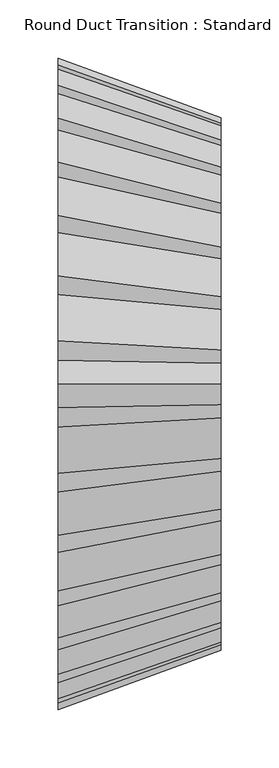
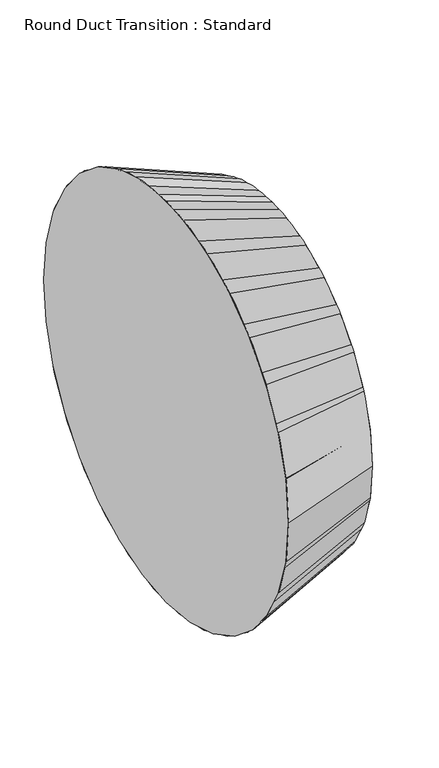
"""IFC4 building model written with IfcOpenShell, lengths in millimetres: duct fitting geometry, Round Duct Transition : Standard."""

from ifc_helpers import new_model, si_unit, frame, origin, place, context, project, spatial, polyline, circle_curve, source, transform, mapped, element, save
from ifc_brep_helpers import plane_surface, revolved_surface, advanced_brep


def round_duct_transition_standard_7377344e(model_context):
    return source(origin(), model_context, "Body", "AdvancedBrep", [
        advanced_brep(
        [(139.7, -228.6, 0.0), (139.7, 0.0, -228.6), (139.7, 228.6, 0.0), (139.7, 0.0, 228.6), (0.0, -279.4, 0.0), (0.0, 0.0, 279.4), (0.0, 279.4, 0.0), (0.0, 0.0, -279.4)],
        [
            (0, 1, circle_curve(frame((139.7, 0.0, 0.0), z_axis=(1.0, 0.0, 0.0), x_axis=(0.0, -1.0, 0.0)), 228.6)),
            (1, 2, circle_curve(frame((139.7, 0.0, 0.0), z_axis=(1.0, 0.0, 0.0), x_axis=(0.0, 0.0, -1.0)), 228.6)),
            (2, 3, circle_curve(frame((139.7, 0.0, 0.0), z_axis=(1.0, 0.0, 0.0), x_axis=(0.0, 1.0, 0.0)), 228.6)),
            (3, 0, circle_curve(frame((139.7, 0.0, 0.0), z_axis=(1.0, 0.0, 0.0), x_axis=(0.0, 0.0, 1.0)), 228.6)),
            (4, 5, circle_curve(frame((0.0, 0.0, 0.0), z_axis=(-1.0, 0.0, 0.0), x_axis=(0.0, 0.0, 1.0)), 279.4)),
            (5, 6, circle_curve(frame((0.0, 0.0, 0.0), z_axis=(-1.0, 0.0, 0.0), x_axis=(0.0, 1.0, 0.0)), 279.4)),
            (6, 7, circle_curve(frame((0.0, 0.0, 0.0), z_axis=(-1.0, 0.0, 0.0), x_axis=(0.0, 0.0, -1.0)), 279.4)),
            (7, 4, circle_curve(frame((0.0, 0.0, 0.0), z_axis=(-1.0, 0.0, 0.0), x_axis=(0.0, -1.0, 0.0)), 279.4)),
            (7, 1),
            (0, 4),
            (6, 2),
            (5, 3),
        ],
        [
            plane_surface(frame((139.7, 0.0, 0.0), z_axis=(1.0, 0.0, 0.0), x_axis=(0.0, 0.0, -1.0))),
            plane_surface(frame((0.0, 0.0, 0.0), z_axis=(-1.0, 0.0, 0.0), x_axis=(0.0, 0.0, -1.0))),
            revolved_surface(polyline([(139.69999999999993, -228.6, 0.0), (0.0, -279.4, 0.0)]), (768.35, 0.0, 0.0), (-1.0, 0.0, 0.0)),
            revolved_surface(polyline([(139.69999999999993, 0.0, -228.6), (0.0, 0.0, -279.4)]), (768.35, 0.0, 0.0), (-1.0, 0.0, 0.0)),
            revolved_surface(polyline([(139.69999999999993, 228.6, 0.0), (0.0, 279.4, 0.0)]), (768.35, 0.0, 0.0), (-1.0, 0.0, 0.0)),
            revolved_surface(polyline([(139.69999999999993, 0.0, 228.6), (0.0, 0.0, 279.4)]), (768.35, 0.0, 0.0), (-1.0, 0.0, 0.0)),
        ],
        [
            (0, [[1, 2, 3, 4]]),
            (1, [[5, 6, 7, 8]]),
            (2, [[-8, 9, -1, 10]]),
            (3, [[-7, 11, -2, -9]]),
            (4, [[-6, 12, -3, -11]]),
            (5, [[-5, -10, -4, -12]]),
        ],
    ),
        advanced_brep(
        [(0.0, -279.4, 0.0), (0.0, 0.0, 279.4), (0.0, 279.4, 0.0), (0.0, 0.0, -279.4), (139.7, -228.6, 0.0), (139.7, 0.0, -228.6), (139.7, 228.6, 0.0), (139.7, 0.0, 228.6)],
        [
            (0, 1, circle_curve(frame((0.0, 0.0, 0.0), z_axis=(-1.0, 0.0, 0.0), x_axis=(0.0, -1.0, 0.0)), 279.4)),
            (1, 2, circle_curve(frame((0.0, 0.0, 0.0), z_axis=(-1.0, 0.0, 0.0), x_axis=(0.0, 0.0, 1.0)), 279.4)),
            (2, 3, circle_curve(frame((0.0, 0.0, 0.0), z_axis=(-1.0, 0.0, 0.0), x_axis=(0.0, 1.0, 0.0)), 279.4)),
            (3, 0, circle_curve(frame((0.0, 0.0, 0.0), z_axis=(-1.0, 0.0, 0.0), x_axis=(0.0, 0.0, -1.0)), 279.4)),
            (4, 5, circle_curve(frame((139.7, 0.0, 0.0), z_axis=(1.0, 0.0, 0.0), x_axis=(0.0, 0.0, -1.0)), 228.6)),
            (5, 6, circle_curve(frame((139.7, 0.0, 0.0), z_axis=(1.0, 0.0, 0.0), x_axis=(0.0, 1.0, 0.0)), 228.6)),
            (6, 7, circle_curve(frame((139.7, 0.0, 0.0), z_axis=(1.0, 0.0, 0.0), x_axis=(0.0, 0.0, 1.0)), 228.6)),
            (7, 4, circle_curve(frame((139.7, 0.0, 0.0), z_axis=(1.0, 0.0, 0.0), x_axis=(0.0, -1.0, 0.0)), 228.6)),
            (7, 1),
            (0, 4),
            (6, 2),
            (5, 3),
        ],
        [
            plane_surface(frame((0.0, 0.0, 0.0), z_axis=(-1.0, 0.0, 0.0), x_axis=(0.0, 0.0, -1.0))),
            plane_surface(frame((139.7, 0.0, 0.0), z_axis=(1.0, 0.0, 0.0), x_axis=(0.0, 0.0, -1.0))),
            revolved_surface(polyline([(139.69999999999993, 0.0, 228.6), (0.0, 0.0, 279.4)]), (768.35, 0.0, 0.0), (-1.0, 0.0, 0.0)),
            revolved_surface(polyline([(139.69999999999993, 228.6, 0.0), (0.0, 279.4, 0.0)]), (768.35, 0.0, 0.0), (-1.0, 0.0, 0.0)),
            revolved_surface(polyline([(139.69999999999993, 0.0, -228.6), (0.0, 0.0, -279.4)]), (768.35, 0.0, 0.0), (-1.0, 0.0, 0.0)),
            revolved_surface(polyline([(139.69999999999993, -228.6, 0.0), (0.0, -279.4, 0.0)]), (768.35, 0.0, 0.0), (-1.0, 0.0, 0.0)),
        ],
        [
            (0, [[1, 2, 3, 4]]),
            (1, [[5, 6, 7, 8]]),
            (2, [[-8, 9, -1, 10]]),
            (3, [[-7, 11, -2, -9]]),
            (4, [[-6, 12, -3, -11]]),
            (5, [[-5, -10, -4, -12]]),
        ],
    ),
        advanced_brep(
        [(139.7, -228.6, 0.0), (139.7, 228.6, 0.0), (0.0, -279.4, 0.0), (0.0, 279.4, 0.0)],
        [
            (0, 1, circle_curve(frame((139.7, 0.0, 0.0), z_axis=(1.0, 0.0, 0.0), x_axis=(0.0, -1.0, 0.0)), 228.6)),
            (1, 0, circle_curve(frame((139.7, 0.0, 0.0), z_axis=(1.0, 0.0, 0.0), x_axis=(0.0, 1.0, 0.0)), 228.6)),
            (2, 3, circle_curve(frame((0.0, 0.0, 0.0), z_axis=(-1.0, 0.0, 0.0), x_axis=(0.0, 1.0, 0.0)), 279.4)),
            (3, 2, circle_curve(frame((0.0, 0.0, 0.0), z_axis=(-1.0, 0.0, 0.0), x_axis=(0.0, -1.0, 0.0)), 279.4)),
            (3, 1),
            (0, 2),
        ],
        [
            plane_surface(frame((139.7, 0.0, 0.0), z_axis=(1.0, 0.0, 0.0), x_axis=(0.0, 0.0, -1.0))),
            plane_surface(frame((0.0, 0.0, 0.0), z_axis=(-1.0, 0.0, 0.0), x_axis=(0.0, 0.0, -1.0))),
            revolved_surface(polyline([(139.69999999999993, -228.6, 0.0), (0.0, -279.4, 0.0)]), (768.35, 0.0, 0.0), (-1.0, 0.0, 0.0)),
            revolved_surface(polyline([(139.69999999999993, 228.6, 0.0), (0.0, 279.4, 0.0)]), (768.35, 0.0, 0.0), (-1.0, 0.0, 0.0)),
        ],
        [
            (0, [[1, 2]]),
            (1, [[3, 4]]),
            (2, [[-4, 5, -1, 6]]),
            (3, [[-3, -6, -2, -5]]),
        ],
    ),
    ])


if __name__ == "__main__":
    model = new_model("IFC4")
    model_context = context("Model", 3, world=origin())
    ifc_project = project(units=[si_unit("LENGTHUNIT", "METRE", prefix="MILLI")], contexts=[model_context])
    site = spatial("IfcSite", under=ifc_project)
    building = spatial("IfcBuilding", under=site)
    placement = place(None, origin())
    round_duct_transition_standard_shape = round_duct_transition_standard_7377344e(model_context)
    element("IfcDuctFitting", 1, ObjectType="Round Duct Transition : Standard", at=placement, inside=building, context=model_context, shape_type="MappedRepresentation", body=[
        mapped(round_duct_transition_standard_shape, transform((0.0, 0.0, 0.0), x_axis=(1.0, 0.0, 0.0), y_axis=(0.0, 1.0, 0.0), z_axis=(0.0, 0.0, 1.0))),
    ])
    save(model, "model.ifc")
